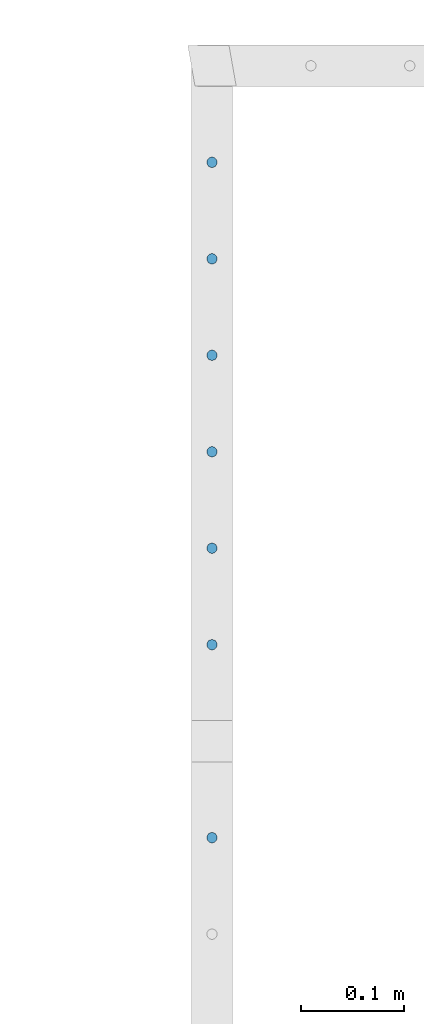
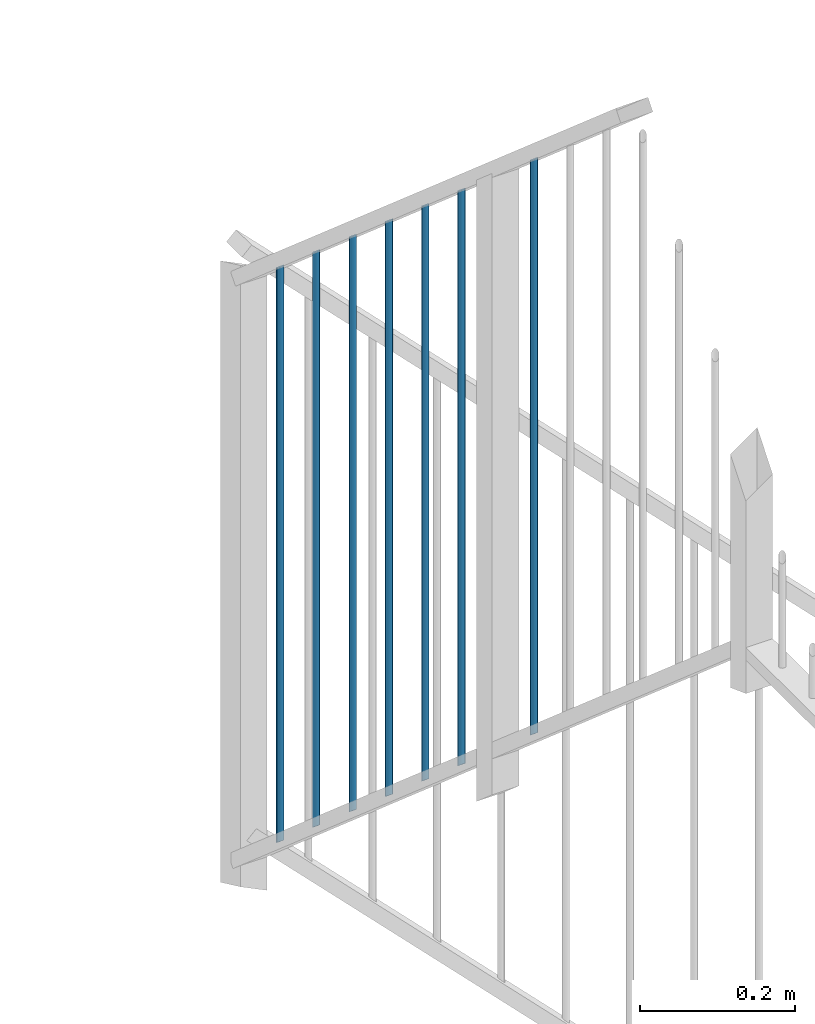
# One storey, part 9 of 135: 7 members, 1 element without a shape of its own.
"""IFC2X3 building model written with IfcOpenShell, lengths in millimetres."""

import ifcopenshell
import ifcopenshell.guid

model = None  # the IFC model being written
_history = None  # IfcOwnerHistory: only IFC2X3 demands one
_inside = {}  # id of a spatial element -> (the spatial element, [elements in it])
_under = {}  # id of a project, library or spatial element -> (it, [spatial elements below it])
_declared = {}  # id of a project -> (the project, [libraries it declares])
_typed = {}  # id of a type object -> (the type object, [elements of that type])
_made_of = {}  # id of a material, layer set ... -> (it, [elements and type objects made of it])


def new_model(schema):
    """Start an empty IFC model of exactly this schema.

    Asked for "IFC4X3", IfcOpenShell would pick the latest addendum, in which some entities
    have other attributes; the version numbers below select the first issue.
    IFC2X3 requires an IfcOwnerHistory on every rooted entity: one is made here for all.
    """
    global model, _history
    if schema == "IFC4X3":
        model = ifcopenshell.file(schema_version=(4, 3, 0, 0))
    else:
        model = ifcopenshell.file(schema=schema)
    _inside.clear()
    _under.clear()
    _declared.clear()
    _typed.clear()
    _made_of.clear()
    _history = None
    if model.schema == "IFC2X3":
        org = make("IfcOrganization", Name="unknown")
        user = make(
            "IfcPersonAndOrganization",
            ThePerson=make("IfcPerson", FamilyName="unknown"),
            TheOrganization=org,
        )
        app = make(
            "IfcApplication",
            ApplicationDeveloper=org,
            Version="unknown",
            ApplicationFullName="unknown",
            ApplicationIdentifier="unknown",
        )
        _history = make(
            "IfcOwnerHistory",
            OwningUser=user,
            OwningApplication=app,
            ChangeAction="ADDED",
            CreationDate=0,
        )
    return model


def make(cls, **values):
    """One entity of the class cls with the attributes given. An attribute that is None is left unset."""
    return model.create_entity(
        cls, **{name: value for name, value in values.items() if value is not None}
    )


def entity(cls, *values):
    """Any entity or typed value of the class cls, its attributes in the order of the schema. None: left unset."""
    e = model.create_entity(cls)
    for i, value in enumerate(values):
        if value is not None:
            e[i] = value
    return e


def rooted(cls, **values):
    """An entity with a GlobalId (a new one), such as an element, a storey or a relation."""
    return make(cls, GlobalId=ifcopenshell.guid.new(), OwnerHistory=_history, **values)


def si_unit(unit_type, name, prefix=None):
    """IfcSIUnit, for example si_unit("LENGTHUNIT", "METRE", prefix="MILLI")."""
    return make("IfcSIUnit", UnitType=unit_type, Prefix=prefix, Name=name)


def converted_unit(unit_type, name, factor, base, dimensions=None, offset=None):
    """IfcConversionBasedUnit, such as the inch: factor (a typed value) times the base unit."""
    return make(
        "IfcConversionBasedUnit"
        if offset is None
        else "IfcConversionBasedUnitWithOffset",
        ConversionOffset=offset,
        Dimensions=None
        if dimensions is None
        else entity("IfcDimensionalExponents", *dimensions),
        UnitType=unit_type,
        Name=name,
        ConversionFactor=make(
            "IfcMeasureWithUnit", ValueComponent=factor, UnitComponent=base
        ),
    )


def derived_unit(unit_type, elements):
    """IfcDerivedUnit: a product of units, each with its exponent."""
    return make(
        "IfcDerivedUnit",
        Elements=[
            make("IfcDerivedUnitElement", Unit=unit, Exponent=power)
            for unit, power in elements
        ],
        UnitType=unit_type,
    )


def money_unit(currency):
    """IfcMonetaryUnit."""
    return make("IfcMonetaryUnit", Currency=currency)


def assignment(units):
    """IfcUnitAssignment: the units of a project."""
    return None if units is None else make("IfcUnitAssignment", Units=units)


def point(xyz):
    """IfcCartesianPoint."""
    return None if xyz is None else make("IfcCartesianPoint", Coordinates=xyz)


def direction(xyz):
    """IfcDirection."""
    return None if xyz is None else make("IfcDirection", DirectionRatios=xyz)


def frame(location, z_axis=None, x_axis=None):
    """IfcAxis2Placement3D, a coordinate frame: its origin and axes. An axis left out is left unset."""
    return make(
        "IfcAxis2Placement3D",
        Location=point(location),
        Axis=direction(z_axis),
        RefDirection=direction(x_axis),
    )


def origin_with_axes():
    """The frame at (0, 0, 0) with the z axis (0, 0, 1) and the x axis (1, 0, 0) written out."""
    return frame((0.0, 0.0, 0.0), z_axis=(0.0, 0.0, 1.0), x_axis=(1.0, 0.0, 0.0))


def place(relative_to, where):
    """IfcLocalPlacement: puts the frame where relative to a parent placement (None: the world)."""
    return make(
        "IfcLocalPlacement", PlacementRelTo=relative_to, RelativePlacement=where
    )


def context(
    kind, dimensions, precision=None, world=None, true_north=None, identifier=None
):
    """IfcGeometricRepresentationContext, for example the 3D "Model" context."""
    return make(
        "IfcGeometricRepresentationContext",
        ContextIdentifier=identifier,
        ContextType=kind,
        CoordinateSpaceDimension=dimensions,
        Precision=precision,
        WorldCoordinateSystem=world,
        TrueNorth=true_north,
    )


def subcontext(parent, identifier, kind, view, scale=None):
    """IfcGeometricRepresentationSubContext, for example "Body" below "Model"."""
    return make(
        "IfcGeometricRepresentationSubContext",
        ContextIdentifier=identifier,
        ContextType=kind,
        ParentContext=parent,
        TargetScale=scale,
        TargetView=view,
    )


def project(units=None, contexts=None):
    """IfcProject with its units and contexts."""
    return rooted(
        "IfcProject",
        Name="project",
        RepresentationContexts=contexts,
        UnitsInContext=assignment(units),
    )


def spatial(cls, under=None, at=None, **own):
    """A site, building, storey or space (cls), placed at a placement, below another one or the project."""
    s = rooted(cls, ObjectPlacement=at, **own)
    if under is not None:
        _under.setdefault(under.id(), (under, []))[1].append(s)
    return s


def faces_of(points, faces, orient=None, outer=None):
    """IfcFace entities. A face is a list of loops; a loop is a list of indices into points, from 0.

    orient and outer hold one flag for each loop. By default every Orientation is true, the
    first loop of a face is its IfcFaceOuterBound and the others are IfcFaceBound.
    """
    made = []
    for i, loops in enumerate(faces):
        bounds = []
        for j, loop in enumerate(loops):
            is_outer = j == 0 if outer is None else outer[i][j]
            bounds.append(
                make(
                    "IfcFaceOuterBound" if is_outer else "IfcFaceBound",
                    Bound=make("IfcPolyLoop", Polygon=[points[k] for k in loop]),
                    Orientation=True if orient is None else orient[i][j],
                )
            )
        made.append(make("IfcFace", Bounds=bounds))
    return made


def faceted_brep(points, faces, orient=None, outer=None, voids=None):
    """IfcFacetedBrep: a solid bounded by flat faces; with voids (closed shells), ...WithVoids."""
    shared = [point(p) for p in points]
    hull = make("IfcClosedShell", CfsFaces=faces_of(shared, faces, orient, outer))
    if voids is None:
        return make("IfcFacetedBrep", Outer=hull)
    return make(
        "IfcFacetedBrepWithVoids",
        Outer=hull,
        Voids=[
            make(cls, CfsFaces=faces_of(shared, fs, o, b)) for cls, fs, o, b in voids
        ],
    )


def shape(context_of_items, identifier, shape_type, items):
    """IfcShapeRepresentation: the items that make up one representation, for example the "Body"."""
    return make(
        "IfcShapeRepresentation",
        ContextOfItems=context_of_items,
        RepresentationIdentifier=identifier,
        RepresentationType=shape_type,
        Items=items,
    )


def source(mapping_origin, context_of_items, identifier, shape_type, items):
    """IfcRepresentationMap: a shape defined once, which mapped items show again and again."""
    return make(
        "IfcRepresentationMap",
        MappingOrigin=mapping_origin,
        MappedRepresentation=shape(context_of_items, identifier, shape_type, items),
    )


def transform(
    local_origin,
    x_axis=None,
    y_axis=None,
    z_axis=None,
    scale=None,
    scale2=None,
    scale3=None,
    uniform=True,
):
    """IfcCartesianTransformationOperator3D, or its non-uniform kind. x_axis, y_axis, z_axis: its Axis1, 2, 3."""
    if uniform:
        return make(
            "IfcCartesianTransformationOperator3D",
            Axis1=direction(x_axis),
            Axis2=direction(y_axis),
            LocalOrigin=point(local_origin),
            Scale=scale,
            Axis3=direction(z_axis),
        )
    return make(
        "IfcCartesianTransformationOperator3DnonUniform",
        Axis1=direction(x_axis),
        Axis2=direction(y_axis),
        LocalOrigin=point(local_origin),
        Scale=scale,
        Axis3=direction(z_axis),
        Scale2=scale2,
        Scale3=scale3,
    )


def mapped(mapping_source, mapping_target):
    """IfcMappedItem: shows the shape of a source again, moved by a transform."""
    return make(
        "IfcMappedItem", MappingSource=mapping_source, MappingTarget=mapping_target
    )


def material(Name=None, Category=None):
    """IfcMaterial."""
    return make("IfcMaterial", Name=Name, Category=Category)


def made_of(thing, what):
    """Note that an element or type object is made of a material, layer set ...; save() writes the relation."""
    if what is not None:
        _made_of.setdefault(what.id(), (what, []))[1].append(thing)
    return thing


def type_object(cls, material=None, **own):
    """A type object (cls), such as IfcWallType, which elements share."""
    return made_of(rooted(cls, **own), material)


def type_shapes(of_type, sources):
    """Give a type object the sources (RepresentationMaps) that its elements show as mapped items."""
    of_type.RepresentationMaps = sources


def element(
    cls,
    number,
    at=None,
    inside=None,
    cuts=None,
    type_object=None,
    material=None,
    context=None,
    identifier="Body",
    shape_type=None,
    held_by="IfcProductDefinitionShape",
    body=None,
    shapes=None,
    **own,
):
    """One element of the class cls, such as IfcWall. Its Tag is "e" and its number.

    at: its placement. inside: the storey or other place that contains it. cuts: it is an
    opening in that element (IfcRelVoidsElement). A single representation is given by context,
    identifier, shape_type and body (its items); several are given by shapes. held_by: the class
    of the entity that holds the representations. save() writes the other relations.
    """
    e = rooted(cls, Tag="e%d" % number, ObjectPlacement=at, **own)
    if body is not None:
        shapes = [shape(context, identifier, shape_type, body)]
    if shapes is not None:
        e.Representation = make(held_by, Representations=shapes)
    if inside is not None:
        _inside.setdefault(inside.id(), (inside, []))[1].append(e)
    if cuts is not None:
        rooted(
            "IfcRelVoidsElement", RelatingBuildingElement=cuts, RelatedOpeningElement=e
        )
    if type_object is not None:
        _typed.setdefault(type_object.id(), (type_object, []))[1].append(e)
    return made_of(e, material)


def aggregate(whole, parts):
    """IfcRelAggregates: a whole, such as a stair, and the parts it consists of."""
    return rooted("IfcRelAggregates", RelatingObject=whole, RelatedObjects=parts)


def save(model, path):
    """Write the relations noted so far, then the file.

    IfcRelAggregates (storeys below a building ...), IfcRelContainedInSpatialStructure (elements
    in a storey), IfcRelDefinesByType, IfcRelAssociatesMaterial and IfcRelDeclares: one each for
    every whole, place, type object, material and project.
    """
    for whole, parts in _under.values():
        aggregate(whole, parts)
    for where, things in _inside.values():
        rooted(
            "IfcRelContainedInSpatialStructure",
            RelatedElements=things,
            RelatingStructure=where,
        )
    for kind, things in _typed.values():
        rooted("IfcRelDefinesByType", RelatedObjects=things, RelatingType=kind)
    for what, things in _made_of.values():
        rooted("IfcRelAssociatesMaterial", RelatedObjects=things, RelatingMaterial=what)
    for by, libraries in _declared.values():
        rooted("IfcRelDeclares", RelatingContext=by, RelatedDefinitions=libraries)
    model.write(path)


model = new_model("IFC2X3")

# Units and contexts
model_context = context("Model", 3, precision=0.01, world=origin_with_axes(), true_north=direction((0.0, 1.0)))
body_context = subcontext(model_context, "Body", "Model", "MODEL_VIEW")
ifc_project = project(units=[si_unit("LENGTHUNIT", "METRE", prefix="MILLI"), si_unit("AREAUNIT", "SQUARE_METRE"), si_unit("VOLUMEUNIT", "CUBIC_METRE"), converted_unit("PLANEANGLEUNIT", "DEGREE", entity("IfcPlaneAngleMeasure", 0.0174532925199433), si_unit("PLANEANGLEUNIT", "RADIAN"), dimensions=[0, 0, 0, 0, 0, 0, 0]), money_unit("EUR"), converted_unit("TIMEUNIT", "Year", entity("IfcTimeMeasure", 31557600.0), si_unit("TIMEUNIT", "SECOND"), dimensions=[0, 0, 1, 0, 0, 0, 0]), si_unit("MASSUNIT", "GRAM", prefix="KILO"), si_unit("THERMODYNAMICTEMPERATUREUNIT", "DEGREE_CELSIUS"), si_unit("LUMINOUSINTENSITYUNIT", "LUMEN"), si_unit("ENERGYUNIT", "JOULE", prefix="MEGA"), derived_unit("THERMALCONDUCTANCEUNIT", [(si_unit("POWERUNIT", "WATT"), 1), (si_unit("LENGTHUNIT", "METRE"), -1), (si_unit("THERMODYNAMICTEMPERATUREUNIT", "KELVIN"), -1)]), derived_unit("SPECIFICHEATCAPACITYUNIT", [(si_unit("ENERGYUNIT", "JOULE"), 1), (si_unit("MASSUNIT", "GRAM", prefix="KILO"), -1), (si_unit("THERMODYNAMICTEMPERATUREUNIT", "KELVIN"), -1)]), derived_unit("MASSDENSITYUNIT", [(si_unit("MASSUNIT", "GRAM", prefix="KILO"), 1), (si_unit("VOLUMEUNIT", "CUBIC_METRE"), -1)])], contexts=[model_context])

# Site, building, storey
site_placement = place(None, origin_with_axes())
site = spatial("IfcSite", under=ifc_project, at=site_placement, Name="Site", CompositionType="ELEMENT")
building_placement = place(site_placement, origin_with_axes())
building = spatial("IfcBuilding", under=site, at=building_placement, Name="Naam gebouw", CompositionType="ELEMENT")
storey_placement = place(building_placement, origin_with_axes())
storey = spatial("IfcBuildingStorey", under=building, at=storey_placement, Name="Begane grond N", CompositionType="ELEMENT", Elevation=0.0)

# Railing, members
railing_type = type_object("IfcRailingType", Name="Railing Type", PredefinedType="NOTDEFINED")
railing_placement = place(storey_placement, frame((799.9999999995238, 21575.82979156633, 4340.731848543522), z_axis=(0.0, 0.0, 1.0), x_axis=(1.0, 0.0, 0.0)))
railing = element("IfcRailing", 1, at=railing_placement, inside=storey, type_object=railing_type, Name="_Reling-x", PredefinedType="NOTDEFINED")
ifc_material = material(Name="Metaal - Staal C")
member_type = type_object("IfcMemberType", Name="IfcMember", PredefinedType="MEMBER")
shared_shape = source(origin_with_axes(), body_context, "Body", "Brep", [
    faceted_brep([(0.0, -5.0, -4.324987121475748), (0.8682408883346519, -4.92403876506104, -4.259280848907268), (0.8682408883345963, -4.92403876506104, 903.2407191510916), (0.0, -5.0, 903.175012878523), (-0.8682408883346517, -4.92403876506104, -4.259280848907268), (-1.710100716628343, -4.698463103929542, -4.064158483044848), (-2.500000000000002, -4.330127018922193, -3.74554871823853), (-3.213938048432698, -3.830222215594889, -3.31313235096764), (-3.830222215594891, -3.213938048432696, -2.780048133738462), (-4.330127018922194, -2.5, -2.162493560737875), (-4.698463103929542, -1.710100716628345, -1.479232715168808), (-4.924038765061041, -0.8682408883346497, -0.7510261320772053), (-5.0, 0.0, 0.0), (-4.92403876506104, 0.8682408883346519, 0.7510261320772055), (-4.698463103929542, 1.710100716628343, 1.479232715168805), (-4.330127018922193, 2.500000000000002, 2.162493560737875), (-3.83022221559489, 3.213938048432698, 2.780048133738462), (-3.213938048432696, 3.83022221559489, 3.313132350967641), (-2.500000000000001, 4.330127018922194, 3.745548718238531), (-1.710100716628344, 4.698463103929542, 4.064158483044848), (-0.8682408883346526, 4.92403876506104, 4.259280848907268), (0.0, 5.0, 4.324987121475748), (0.8682408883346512, 4.92403876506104, 4.259280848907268), (1.710100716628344, 4.698463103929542, 4.064158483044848), (2.499999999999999, 4.330127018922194, 3.745548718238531), (3.213938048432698, 3.83022221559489, 3.31313235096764), (3.83022221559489, 3.213938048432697, 2.780048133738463), (4.330127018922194, 2.499999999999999, 2.162493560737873), (4.698463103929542, 1.710100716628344, 1.479232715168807), (4.92403876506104, 0.8682408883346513, 0.7510261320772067), (5.0, 0.0, 0.0), (4.92403876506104, -0.8682408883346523, -0.7510261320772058), (4.698463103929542, -1.710100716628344, -1.479232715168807), (4.330127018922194, -2.5, -2.162493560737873), (3.83022221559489, -3.213938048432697, -2.780048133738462), (3.213938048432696, -3.83022221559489, -3.313132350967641), (2.5, -4.330127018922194, -3.745548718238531), (1.710100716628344, -4.698463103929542, -4.064158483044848), (1.710100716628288, -4.698463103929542, 903.435841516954), (2.499999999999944, -4.330127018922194, 903.7544512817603), (3.213938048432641, -3.830222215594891, 904.1868676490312), (3.830222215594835, -3.213938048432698, 904.7199518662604), (4.330127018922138, -2.500000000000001, 905.337506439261), (4.698463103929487, -1.710100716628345, 906.0207672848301), (4.924038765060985, -0.8682408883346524, 906.7489738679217), (4.999999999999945, 0.0, 907.4999999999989), (4.924038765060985, 0.8682408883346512, 908.251026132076), (4.698463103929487, 1.710100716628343, 908.9792327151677), (4.330127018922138, 2.499999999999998, 909.6624935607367), (3.830222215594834, 3.213938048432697, 910.2800481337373), (3.213938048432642, 3.830222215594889, 910.8131323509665), (2.499999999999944, 4.330127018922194, 911.2455487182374), (1.710100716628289, 4.698463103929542, 911.5641584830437), (0.8682408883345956, 4.92403876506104, 911.7592808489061), (0.0, 5.0, 911.8249871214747), (-0.8682408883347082, 4.92403876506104, 911.7592808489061), (-1.710100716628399, 4.698463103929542, 911.5641584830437), (-2.500000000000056, 4.330127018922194, 911.2455487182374), (-3.213938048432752, 3.830222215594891, 910.8131323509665), (-3.830222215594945, 3.213938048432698, 910.2800481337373), (-4.330127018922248, 2.500000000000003, 909.6624935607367), (-4.698463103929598, 1.710100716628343, 908.9792327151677), (-4.924038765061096, 0.868240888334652, 908.251026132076), (-5.000000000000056, 0.0, 907.4999999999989), (-4.924038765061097, -0.8682408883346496, 906.7489738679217), (-4.698463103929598, -1.710100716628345, 906.0207672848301), (-4.330127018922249, -2.5, 905.337506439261), (-3.830222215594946, -3.213938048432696, 904.7199518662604), (-3.213938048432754, -3.830222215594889, 904.1868676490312), (-2.500000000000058, -4.330127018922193, 903.7544512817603), (-1.710100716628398, -4.698463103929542, 903.435841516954), (-0.8682408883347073, -4.92403876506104, 903.2407191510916)], [[[0, 1, 2, 3]], [[0, 4, 5, 6, 7, 8, 9, 10, 11, 12, 13, 14, 15, 16, 17, 18, 19, 20, 21, 22, 23, 24, 25, 26, 27, 28, 29, 30, 31, 32, 33, 34, 35, 36, 37, 1]], [[1, 37, 38, 2]], [[3, 2, 38, 39, 40, 41, 42, 43, 44, 45, 46, 47, 48, 49, 50, 51, 52, 53, 54, 55, 56, 57, 58, 59, 60, 61, 62, 63, 64, 65, 66, 67, 68, 69, 70, 71]], [[4, 0, 3, 71]], [[5, 4, 71, 70]], [[6, 5, 70, 69]], [[7, 6, 69, 68]], [[8, 7, 68, 67]], [[9, 8, 67, 66]], [[10, 9, 66, 65]], [[11, 10, 65, 64]], [[12, 11, 64, 63]], [[13, 12, 63, 62]], [[14, 13, 62, 61]], [[15, 14, 61, 60]], [[16, 15, 60, 59]], [[17, 16, 59, 58]], [[18, 17, 58, 57]], [[19, 18, 57, 56]], [[20, 19, 56, 55]], [[21, 20, 55, 54]], [[22, 21, 54, 53]], [[23, 22, 53, 52]], [[24, 23, 52, 51]], [[25, 24, 51, 50]], [[26, 25, 50, 49]], [[27, 26, 49, 48]], [[28, 27, 48, 47]], [[29, 28, 47, 46]], [[30, 29, 46, 45]], [[31, 30, 45, 44]], [[32, 31, 44, 43]], [[33, 32, 43, 42]], [[34, 33, 42, 41]], [[35, 34, 41, 40]], [[36, 35, 40, 39]], [[37, 36, 39, 38]]]),
])
type_shapes(member_type, [shared_shape])
member_1_placement = place(railing_placement, frame((-1084.999999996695, 1261.90641475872, 2419.464071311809), z_axis=(0.0, 0.0, 1.0), x_axis=(1.0, 0.0, 0.0)))
member_1 = element("IfcMember", 2, at=member_1_placement, type_object=member_type, material=ifc_material, Name="_Spijlen-x", ObjectType="MEMBER", context=body_context, shape_type="MappedRepresentation", body=[
    mapped(shared_shape, transform((0.0, 0.0, 0.0), x_axis=(-1.0, 0.0, 0.0), y_axis=(0.0, -1.0, 0.0), z_axis=(0.0, 0.0, 1.0))),
])
member_2_placement = place(railing_placement, frame((-1084.999999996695, 1074.525494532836, 2581.548084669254), z_axis=(0.0, 0.0, 1.0), x_axis=(1.0, 0.0, 0.0)))
member_2 = element("IfcMember", 3, at=member_2_placement, type_object=member_type, material=ifc_material, Name="_Spijlen-x", ObjectType="MEMBER", context=body_context, shape_type="MappedRepresentation", body=[
    mapped(shared_shape, transform((0.0, 0.0, 0.0), x_axis=(-1.0, 0.0, 0.0), y_axis=(0.0, -1.0, 0.0), z_axis=(0.0, 0.0, 1.0))),
])
member_3_placement = place(railing_placement, frame((-1084.999999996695, 980.8350344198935, 2662.590091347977), z_axis=(0.0, 0.0, 1.0), x_axis=(1.0, 0.0, 0.0)))
member_3 = element("IfcMember", 4, at=member_3_placement, type_object=member_type, material=ifc_material, Name="_Spijlen-x", ObjectType="MEMBER", context=body_context, shape_type="MappedRepresentation", body=[
    mapped(shared_shape, transform((0.0, 0.0, 0.0), x_axis=(-1.0, 0.0, 0.0), y_axis=(0.0, -1.0, 0.0), z_axis=(0.0, 0.0, 1.0))),
])
member_4_placement = place(railing_placement, frame((-1084.999999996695, 887.1445743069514, 2743.6320980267), z_axis=(0.0, 0.0, 1.0), x_axis=(1.0, 0.0, 0.0)))
member_4 = element("IfcMember", 5, at=member_4_placement, type_object=member_type, material=ifc_material, Name="_Spijlen-x", ObjectType="MEMBER", context=body_context, shape_type="MappedRepresentation", body=[
    mapped(shared_shape, transform((0.0, 0.0, 0.0), x_axis=(-1.0, 0.0, 0.0), y_axis=(0.0, -1.0, 0.0), z_axis=(0.0, 0.0, 1.0))),
])
member_5_placement = place(railing_placement, frame((-1084.999999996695, 1355.596874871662, 2338.422064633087), z_axis=(0.0, 0.0, 1.0), x_axis=(1.0, 0.0, 0.0)))
member_5 = element("IfcMember", 6, at=member_5_placement, type_object=member_type, material=ifc_material, Name="_Spijlen-x", ObjectType="MEMBER", context=body_context, shape_type="MappedRepresentation", body=[
    mapped(shared_shape, transform((0.0, 0.0, 0.0), x_axis=(-1.0, 0.0, 0.0), y_axis=(0.0, -1.0, 0.0), z_axis=(0.0, 0.0, 1.0))),
])
member_6_placement = place(railing_placement, frame((-1084.999999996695, 1168.215954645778, 2500.506077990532), z_axis=(0.0, 0.0, 1.0), x_axis=(1.0, 0.0, 0.0)))
member_6 = element("IfcMember", 7, at=member_6_placement, type_object=member_type, material=ifc_material, Name="_Spijlen-x", ObjectType="MEMBER", context=body_context, shape_type="MappedRepresentation", body=[
    mapped(shared_shape, transform((0.0, 0.0, 0.0), x_axis=(-1.0, 0.0, 0.0), y_axis=(0.0, -1.0, 0.0), z_axis=(0.0, 0.0, 1.0))),
])
member_7_placement = place(railing_placement, frame((-1084.999999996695, 699.7636540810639, 2905.716111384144), z_axis=(0.0, 0.0, 1.0), x_axis=(1.0, 0.0, 0.0)))
member_7 = element("IfcMember", 8, at=member_7_placement, type_object=member_type, material=ifc_material, Name="_Spijlen-x", ObjectType="MEMBER", context=body_context, shape_type="MappedRepresentation", body=[
    mapped(shared_shape, transform((0.0, 0.0, 0.0), x_axis=(-1.0, 0.0, 0.0), y_axis=(0.0, -1.0, 0.0), z_axis=(0.0, 0.0, 1.0))),
])
aggregate(railing, [member_1, member_2, member_3, member_4, member_5, member_6, member_7])

save(model, "model.ifc")
